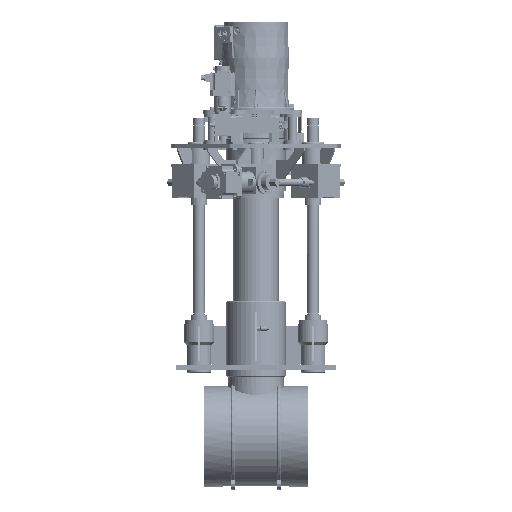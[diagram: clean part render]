
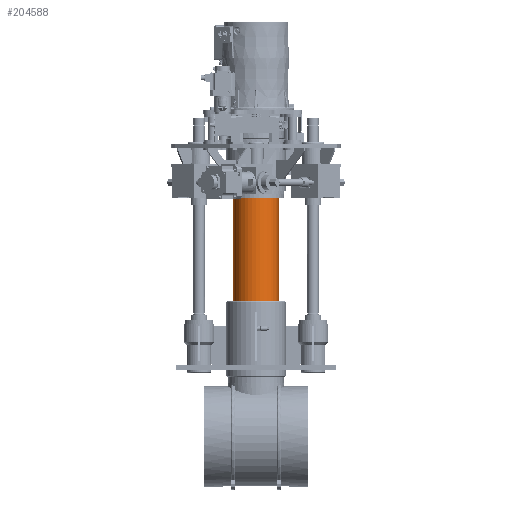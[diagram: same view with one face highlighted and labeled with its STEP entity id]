
A CAD part, left-side view. The second image highlights one B-rep face of the part: STEP entity #204588.
In plain terms, the highlighted cylindrical face has radius 120 mm (diameter 240 mm), a full revolution.
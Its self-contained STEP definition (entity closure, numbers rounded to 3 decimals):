
#5972=CYLINDRICAL_SURFACE('',#220155,120.);
#16049=FACE_OUTER_BOUND('',#27392,.T.);
#27392=EDGE_LOOP('',(#165869,#165870,#165871,#165872,#165873));
#39051=CIRCLE('',#220156,120.);
#39052=CIRCLE('',#220157,120.);
#39053=CIRCLE('',#220158,120.);
#54160=LINE('',#370279,#70505);
#70505=VECTOR('',#263937,120.);
#88540=VERTEX_POINT('',#370276);
#88541=VERTEX_POINT('',#370278);
#88542=VERTEX_POINT('',#370280);
#115120=EDGE_CURVE('',#88540,#88540,#39051,.T.);
#115121=EDGE_CURVE('',#88540,#88541,#54160,.T.);
#115122=EDGE_CURVE('',#88541,#88542,#39052,.T.);
#115123=EDGE_CURVE('',#88542,#88541,#39053,.T.);
#165869=ORIENTED_EDGE('',*,*,#115120,.F.);
#165870=ORIENTED_EDGE('',*,*,#115121,.T.);
#165871=ORIENTED_EDGE('',*,*,#115122,.T.);
#165872=ORIENTED_EDGE('',*,*,#115123,.T.);
#165873=ORIENTED_EDGE('',*,*,#115121,.F.);
#204588=ADVANCED_FACE('',(#16049),#5972,.T.);
#220155=AXIS2_PLACEMENT_3D('',#370275,#263933,#263934);
#220156=AXIS2_PLACEMENT_3D('',#370277,#263935,#263936);
#220157=AXIS2_PLACEMENT_3D('',#370281,#263938,#263939);
#220158=AXIS2_PLACEMENT_3D('',#370282,#263940,#263941);
#263933=DIRECTION('center_axis',(0.,0.,
1.));
#263934=DIRECTION('ref_axis',(-1.,0.,0.));
#263935=DIRECTION('center_axis',(0.,0.,
1.));
#263936=DIRECTION('ref_axis',(-1.,0.,0.));
#263937=DIRECTION('',(0.,0.,-1.));
#263938=DIRECTION('center_axis',(0.,0.,
1.));
#263939=DIRECTION('ref_axis',(0.,1.,0.));
#263940=DIRECTION('center_axis',(0.,0.,
1.));
#263941=DIRECTION('ref_axis',(0.,1.,0.));
#370275=CARTESIAN_POINT('Origin',(0.,0.,
-48.));
#370276=CARTESIAN_POINT('',(120.,0.,914.8));
#370277=CARTESIAN_POINT('Origin',(0.,0.,
914.8));
#370278=CARTESIAN_POINT('',(120.,0.,360.15));
#370279=CARTESIAN_POINT('',(120.,0.,-48.));
#370280=CARTESIAN_POINT('',(0.,120.,360.15));
#370281=CARTESIAN_POINT('Origin',(0.,0.,
360.15));
#370282=CARTESIAN_POINT('Origin',(0.,0.,
360.15));
